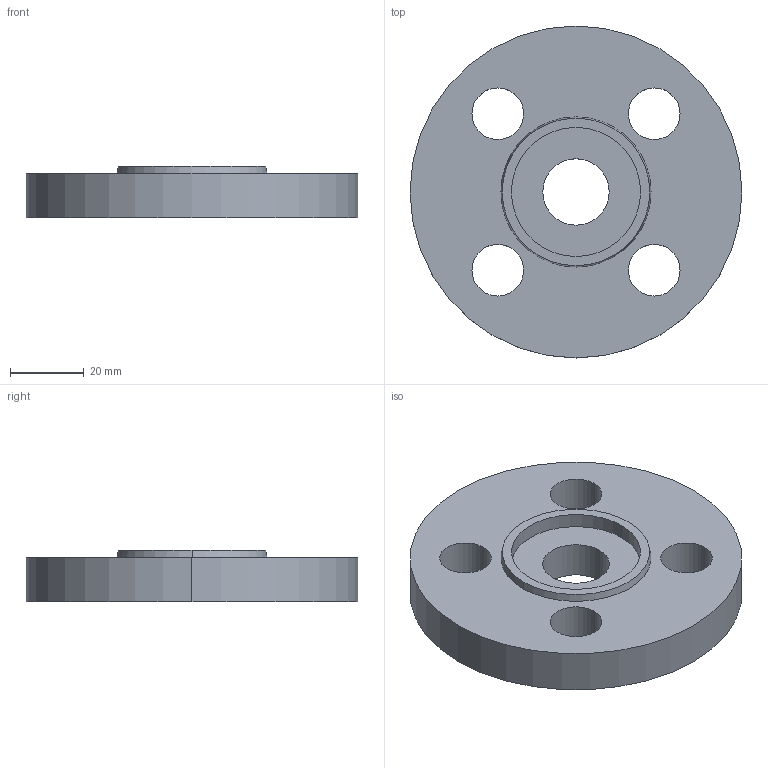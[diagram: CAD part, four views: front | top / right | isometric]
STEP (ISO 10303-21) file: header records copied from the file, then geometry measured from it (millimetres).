
FILE_DESCRIPTION (( 'STEP AP214' ), '1' );
FILE_NAME ('PN40 DN10 Type 01 - Type F Face.STEP', '2018-12-29T05:26:06', ( '' ), ( '' ), 'SwSTEP 2.0', 'SolidWorks 2019', '' );
FILE_SCHEMA (( 'AUTOMOTIVE_DESIGN' ));
Length unit declared in the file: millimetre
Products named in the file (1): PN40 DN10 Type 01 - Type F Face
Bounding box: 90 x 90 x 14 mm (x, y, z)
Volume: 65116.4 mm3; surface area: 17705.1 mm2
Topology: 1 solids, 1 shells, 20 faces, 48 edges, 32 vertices
Faces by surface type: cylinder 14, plane 4, cone 2
Entity records: 658 total; most frequent: DIRECTION 122, CARTESIAN_POINT 101, ORIENTED_EDGE 96, AXIS2_PLACEMENT_3D 53, EDGE_CURVE 48, VERTEX_POINT 32, EDGE_LOOP 32, CIRCLE 32
